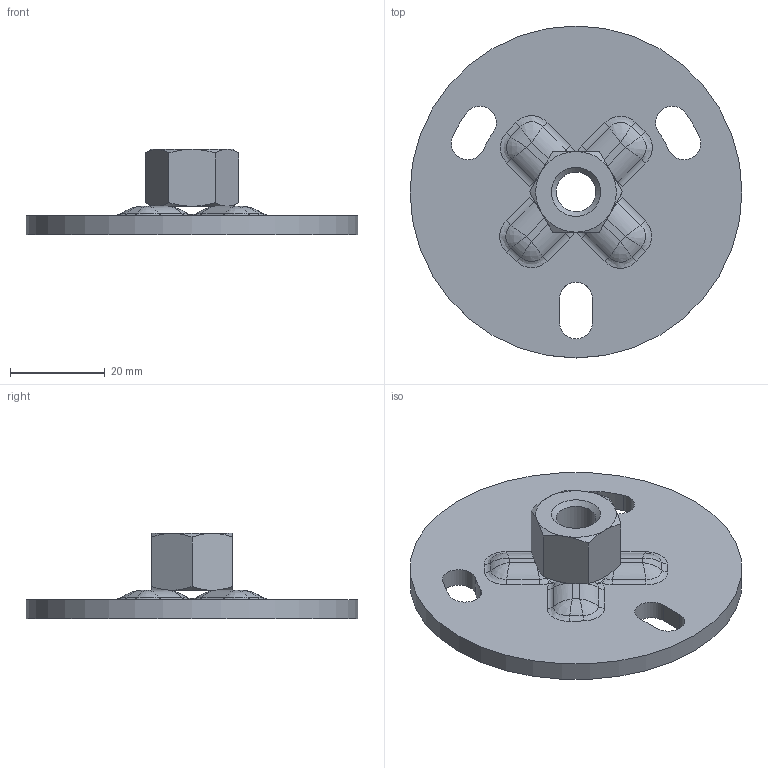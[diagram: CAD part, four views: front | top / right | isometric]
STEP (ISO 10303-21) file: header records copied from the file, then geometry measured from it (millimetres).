
FILE_DESCRIPTION(/* description */ (''),/* implementation_level */ '2;1');
FILE_NAME(/* name */ '362.837.26.1.stp',/* time_stamp */ '2025-02-20T15:16:56+01:00',/* author */ ('JANAN'),/* organization */ (''),/* preprocessor_version */ 'ST-DEVELOPER v19.2',/* originating_system */ 'Autodesk Inventor 2023',/* authorisation */ '');
FILE_SCHEMA (('AUTOMOTIVE_DESIGN { 1 0 10303 214 3 1 1 }'));
Length unit declared in the file: millimetre
Products named in the file (1): tmp22.tmp
Bounding box: 70 x 70 x 18 mm (x, y, z)
Volume: 17283.6 mm3; surface area: 9942.4 mm2
Topology: 2 solids, 2 shells, 127 faces, 309 edges, 170 vertices
Faces by surface type: bspline 48, cylinder 37, plane 20, cone 14, sphere 8
Full cylindrical faces by diameter (mm): 8.376 x1, 9 x1, 70 x1
Entity records: 6692 total; most frequent: CARTESIAN_POINT 3919, ORIENTED_EDGE 586, DIRECTION 473, EDGE_CURVE 293, AXIS2_PLACEMENT_3D 205, VERTEX_POINT 170, EDGE_LOOP 137, STYLED_ITEM 129
